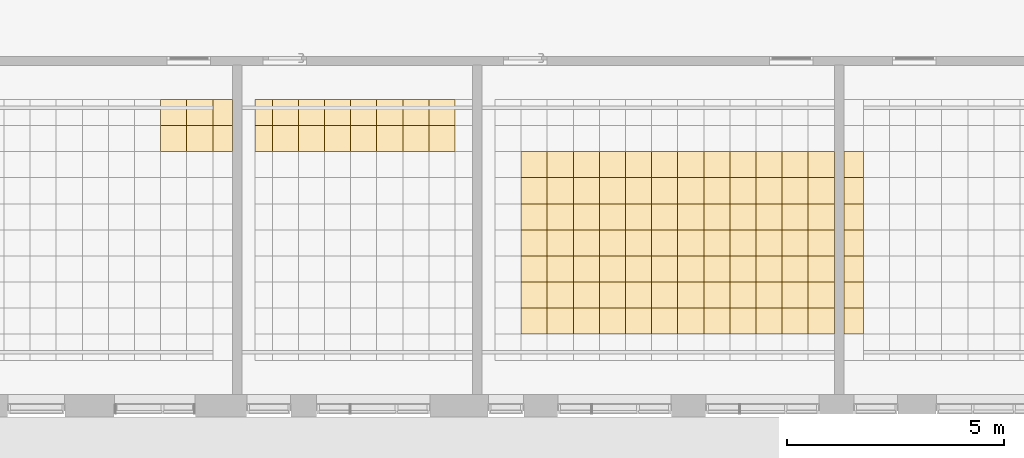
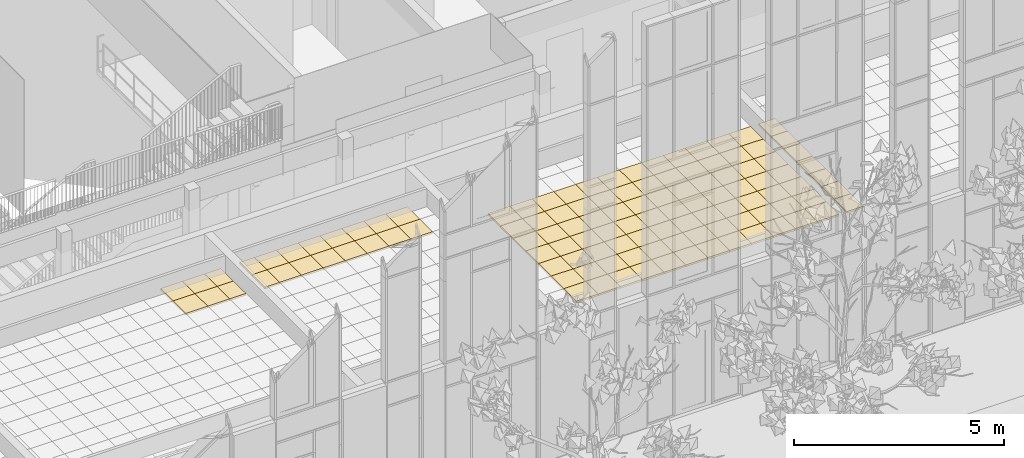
# One storey, part 193 of 246: 113 coverings.
"""IFC2X3 building model written with IfcOpenShell, lengths in millimetres."""

from ifc_helpers import new_model, entity, si_unit, converted_unit, derived_unit, money_unit, direction, frame, origin_with_axes, place, context, subcontext, project, spatial, faceted_brep, material, material_list, type_object, element, save


model = new_model("IFC2X3")

# Units and contexts
model_context = context("Model", 3, precision=0.01, world=origin_with_axes(), true_north=direction((0.0, 1.0)))
body_context = subcontext(model_context, "Body", "Model", "MODEL_VIEW")
ifc_project = project(units=[si_unit("LENGTHUNIT", "METRE", prefix="MILLI"), si_unit("AREAUNIT", "SQUARE_METRE"), si_unit("VOLUMEUNIT", "CUBIC_METRE"), converted_unit("PLANEANGLEUNIT", "DEGREE", entity("IfcPlaneAngleMeasure", 0.0174532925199), si_unit("PLANEANGLEUNIT", "RADIAN"), dimensions=[0, 0, 0, 0, 0, 0, 0]), si_unit("SOLIDANGLEUNIT", "STERADIAN"), money_unit("EUR"), converted_unit("TIMEUNIT", "Year", entity("IfcTimeMeasure", 31556926.0), si_unit("TIMEUNIT", "SECOND"), dimensions=[0, 0, 1, 0, 0, 0, 0]), si_unit("MASSUNIT", "GRAM", prefix="KILO"), si_unit("THERMODYNAMICTEMPERATUREUNIT", "DEGREE_CELSIUS"), si_unit("LUMINOUSINTENSITYUNIT", "LUMEN"), si_unit("ENERGYUNIT", "JOULE", prefix="MEGA"), derived_unit("THERMALCONDUCTANCEUNIT", [(si_unit("POWERUNIT", "WATT"), 1), (si_unit("LENGTHUNIT", "METRE"), -1), (si_unit("THERMODYNAMICTEMPERATUREUNIT", "KELVIN"), -1)]), derived_unit("SPECIFICHEATCAPACITYUNIT", [(si_unit("ENERGYUNIT", "JOULE"), 1), (si_unit("MASSUNIT", "GRAM", prefix="KILO"), -1), (si_unit("THERMODYNAMICTEMPERATUREUNIT", "KELVIN"), -1)]), derived_unit("MASSDENSITYUNIT", [(si_unit("MASSUNIT", "GRAM", prefix="KILO"), 1), (si_unit("VOLUMEUNIT", "CUBIC_METRE"), -1)])], contexts=[model_context])

# Site, building, storey
site_placement = place(None, origin_with_axes())
site = spatial("IfcSite", under=ifc_project, at=site_placement, Name="L.Koidula tn 11b", CompositionType="ELEMENT")
building_placement = place(site_placement, origin_with_axes())
building = spatial("IfcBuilding", under=site, at=building_placement, Name="Rakvere Riigigümnaasium", CompositionType="ELEMENT")
storey_placement = place(building_placement, origin_with_axes())
storey = spatial("IfcBuildingStorey", under=building, at=storey_placement, Name="1.korrus 0,00", CompositionType="ELEMENT", Elevation=0.0)

# Coverings
ifc_material_1 = material(Name="Karkass")
ifc_material_2 = material(Name="Kipsplaat")
ifc_material_list = material_list([ifc_material_1, ifc_material_2])
covering_type = type_object("IfcCoveringType", Name="SA-LV-Kips-moodul 55", PredefinedType="CEILING")
for number, where, z_axis, x_axis, name in (
    (1, (59159.6752046, 11090.4535941, 2750.0), (0.0, 0.0, 1.0), (1.0, 0.0, 0.0), "L-03"),
    (2, (59159.6752046, 11690.4535941, 2750.0), (0.0, 0.0, 1.0), (1.0, 0.0, 0.0), "L-03"),
):
    element("IfcCovering", number, at=place(storey_placement, frame(where, z_axis=z_axis, x_axis=x_axis)), inside=storey, type_object=covering_type, material=ifc_material_list, Name=name, PredefinedType="CEILING", context=body_context, shape_type="Brep", body=[
        faceted_brep([(599.999948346, 0.0, 12.5), (599.999948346, 0.0, 54.5), (0.0, 0.0, 54.5), (0.0, 0.0, 12.5), (599.999948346, 600.0, 12.5), (599.999948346, 600.0, 54.5), (0.0, 600.0, 54.5), (0.0, 600.0, 12.5)], [[[0, 1, 2, 3]], [[4, 5, 1, 0]], [[2, 1, 5, 6]], [[3, 2, 6, 7]], [[3, 7, 4, 0]], [[7, 6, 5, 4]]]),
        faceted_brep([(0.0, 0.0, 0.0), (599.999948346, 0.0, 0.0), (599.999948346, 0.0, 12.5), (0.0, 0.0, 12.5), (0.0, 600.0, 0.0), (599.999948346, 600.0, 0.0), (599.999948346, 600.0, 12.5), (0.0, 600.0, 12.5)], [[[0, 1, 2, 3]], [[0, 4, 5, 1]], [[1, 5, 6, 2]], [[3, 2, 6, 7]], [[4, 0, 3, 7]], [[5, 4, 7, 6]]]),
    ])
for number, where, z_axis, x_axis, name in (
    (3, (60359.6751529, 11090.4535941, 2750.0), (0.0, 0.0, 1.0), (1.0, 0.0, 0.0), "L-03"),
    (4, (60359.6751529, 11690.4535941, 2750.0), (0.0, 0.0, 1.0), (1.0, 0.0, 0.0), "L-03"),
):
    element("IfcCovering", number, at=place(storey_placement, frame(where, z_axis=z_axis, x_axis=x_axis)), inside=storey, type_object=covering_type, material=ifc_material_list, Name=name, PredefinedType="CEILING", context=body_context, shape_type="Brep", body=[
        faceted_brep([(450.341138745, 0.0, 12.5), (450.341138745, 0.0, 54.5), (0.0, 0.0, 54.5), (0.0, 0.0, 12.5), (450.341138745, 600.0, 12.5), (450.341138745, 600.0, 54.5), (0.0, 600.0, 54.5), (0.0, 600.0, 12.5)], [[[0, 1, 2, 3]], [[4, 5, 1, 0]], [[2, 1, 5, 6]], [[3, 2, 6, 7]], [[3, 7, 4, 0]], [[7, 6, 5, 4]]]),
        faceted_brep([(0.0, 0.0, 0.0), (450.341138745, 0.0, 0.0), (450.341138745, 0.0, 12.5), (0.0, 0.0, 12.5), (0.0, 600.0, 0.0), (450.341138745, 600.0, 0.0), (450.341138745, 600.0, 12.5), (0.0, 600.0, 12.5)], [[[0, 1, 2, 3]], [[0, 4, 5, 1]], [[1, 5, 6, 2]], [[3, 2, 6, 7]], [[4, 0, 3, 7]], [[5, 4, 7, 6]]]),
    ])
for number, where, z_axis, x_axis, name in (
    (5, (59759.6751529, 11090.4535941, 2750.0), (0.0, 0.0, 1.0), (1.0, 0.0, 0.0), "L-03"),
    (6, (59759.6751529, 11690.4535941, 2750.0), (0.0, 0.0, 1.0), (1.0, 0.0, 0.0), "L-03"),
):
    element("IfcCovering", number, at=place(storey_placement, frame(where, z_axis=z_axis, x_axis=x_axis)), inside=storey, type_object=covering_type, material=ifc_material_list, Name=name, PredefinedType="CEILING", context=body_context, shape_type="Brep", body=[
        faceted_brep([(600.0, 0.0, 12.5), (600.0, 0.0, 54.5), (0.0, 0.0, 54.5), (0.0, 0.0, 12.5), (600.0, 600.0, 12.5), (600.0, 600.0, 54.5), (0.0, 600.0, 54.5), (0.0, 600.0, 12.5)], [[[0, 1, 2, 3]], [[4, 5, 1, 0]], [[2, 1, 5, 6]], [[3, 2, 6, 7]], [[3, 7, 4, 0]], [[7, 6, 5, 4]]]),
        faceted_brep([(0.0, 0.0, 0.0), (600.0, 0.0, 0.0), (600.0, 0.0, 12.5), (0.0, 0.0, 12.5), (0.0, 600.0, 0.0), (600.0, 600.0, 0.0), (600.0, 600.0, 12.5), (0.0, 600.0, 12.5)], [[[0, 1, 2, 3]], [[0, 4, 5, 1]], [[1, 5, 6, 2]], [[3, 2, 6, 7]], [[4, 0, 3, 7]], [[5, 4, 7, 6]]]),
    ])
for number, where, z_axis, x_axis, name in (
    (7, (61729.718917, 11090.4535941, 2750.0), (0.0, 0.0, 1.0), (1.0, 0.0, 0.0), "L-03"),
    (8, (61729.718917, 11690.4535941, 2750.0), (0.0, 0.0, 1.0), (1.0, 0.0, 0.0), "L-03"),
):
    element("IfcCovering", number, at=place(storey_placement, frame(where, z_axis=z_axis, x_axis=x_axis)), inside=storey, type_object=covering_type, material=ifc_material_list, Name=name, PredefinedType="CEILING", context=body_context, shape_type="Brep", body=[
        faceted_brep([(599.999948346, 0.0, 12.5), (599.999948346, 0.0, 54.5), (0.0, 0.0, 54.5), (0.0, 0.0, 12.5), (599.999948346, 600.0, 12.5), (599.999948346, 600.0, 54.5), (0.0, 600.0, 54.5), (0.0, 600.0, 12.5)], [[[0, 1, 2, 3]], [[4, 5, 1, 0]], [[2, 1, 5, 6]], [[3, 2, 6, 7]], [[3, 7, 4, 0]], [[7, 6, 5, 4]]]),
        faceted_brep([(0.0, 0.0, 0.0), (599.999948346, 0.0, 0.0), (599.999948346, 0.0, 12.5), (0.0, 0.0, 12.5), (0.0, 600.0, 0.0), (599.999948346, 600.0, 0.0), (599.999948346, 600.0, 12.5), (0.0, 600.0, 12.5)], [[[0, 1, 2, 3]], [[0, 4, 5, 1]], [[1, 5, 6, 2]], [[3, 2, 6, 7]], [[4, 0, 3, 7]], [[5, 4, 7, 6]]]),
    ])
for number, where, z_axis, x_axis, name in (
    (9, (61329.7177494, 11090.4535941, 2750.0), (0.0, 0.0, 1.0), (1.0, 0.0, 0.0), "L-03"),
    (10, (61329.7177494, 11690.4535941, 2750.0), (0.0, 0.0, 1.0), (1.0, 0.0, 0.0), "L-03"),
):
    element("IfcCovering", number, at=place(storey_placement, frame(where, z_axis=z_axis, x_axis=x_axis)), inside=storey, type_object=covering_type, material=ifc_material_list, Name=name, PredefinedType="CEILING", context=body_context, shape_type="Brep", body=[
        faceted_brep([(400.001167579, 0.0, 12.5), (400.001167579, 0.0, 54.5), (0.0, 0.0, 54.5), (0.0, 0.0, 12.5), (400.001167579, 600.0, 12.5), (400.001167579, 600.0, 54.5), (0.0, 600.0, 54.5), (0.0, 600.0, 12.5)], [[[0, 1, 2, 3]], [[4, 5, 1, 0]], [[2, 1, 5, 6]], [[3, 2, 6, 7]], [[3, 7, 4, 0]], [[7, 6, 5, 4]]]),
        faceted_brep([(0.0, 0.0, 0.0), (400.001167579, 0.0, 0.0), (400.001167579, 0.0, 12.5), (0.0, 0.0, 12.5), (0.0, 600.0, 0.0), (400.001167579, 600.0, 0.0), (400.001167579, 600.0, 12.5), (0.0, 600.0, 12.5)], [[[0, 1, 2, 3]], [[0, 4, 5, 1]], [[1, 5, 6, 2]], [[3, 2, 6, 7]], [[4, 0, 3, 7]], [[5, 4, 7, 6]]]),
    ])
for number, where, z_axis, x_axis, name in (
    (11, (62929.7188653, 11090.4535941, 2750.0), (0.0, 0.0, 1.0), (1.0, 0.0, 0.0), "L-03"),
    (12, (62929.7188653, 11690.4535941, 2750.0), (0.0, 0.0, 1.0), (1.0, 0.0, 0.0), "L-03"),
):
    element("IfcCovering", number, at=place(storey_placement, frame(where, z_axis=z_axis, x_axis=x_axis)), inside=storey, type_object=covering_type, material=ifc_material_list, Name=name, PredefinedType="CEILING", context=body_context, shape_type="Brep", body=[
        faceted_brep([(599.999948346, 0.0, 12.5), (599.999948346, 0.0, 54.5), (0.0, 0.0, 54.5), (0.0, 0.0, 12.5), (599.999948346, 600.0, 12.5), (599.999948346, 600.0, 54.5), (0.0, 600.0, 54.5), (0.0, 600.0, 12.5)], [[[0, 1, 2, 3]], [[4, 5, 1, 0]], [[2, 1, 5, 6]], [[3, 2, 6, 7]], [[3, 7, 4, 0]], [[7, 6, 5, 4]]]),
        faceted_brep([(0.0, 0.0, 0.0), (599.999948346, 0.0, 0.0), (599.999948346, 0.0, 12.5), (0.0, 0.0, 12.5), (0.0, 600.0, 0.0), (599.999948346, 600.0, 0.0), (599.999948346, 600.0, 12.5), (0.0, 600.0, 12.5)], [[[0, 1, 2, 3]], [[0, 4, 5, 1]], [[1, 5, 6, 2]], [[3, 2, 6, 7]], [[4, 0, 3, 7]], [[5, 4, 7, 6]]]),
    ])
for number, where, z_axis, x_axis, name in (
    (13, (62329.7188653, 11090.4535941, 2750.0), (0.0, 0.0, 1.0), (1.0, 0.0, 0.0), "L-03"),
    (14, (62329.7188653, 11690.4535941, 2750.0), (0.0, 0.0, 1.0), (1.0, 0.0, 0.0), "L-03"),
):
    element("IfcCovering", number, at=place(storey_placement, frame(where, z_axis=z_axis, x_axis=x_axis)), inside=storey, type_object=covering_type, material=ifc_material_list, Name=name, PredefinedType="CEILING", context=body_context, shape_type="Brep", body=[
        faceted_brep([(600.0, 0.0, 12.5), (600.0, 0.0, 54.5), (0.0, 0.0, 54.5), (0.0, 0.0, 12.5), (600.0, 600.0, 12.5), (600.0, 600.0, 54.5), (0.0, 600.0, 54.5), (0.0, 600.0, 12.5)], [[[0, 1, 2, 3]], [[4, 5, 1, 0]], [[2, 1, 5, 6]], [[3, 2, 6, 7]], [[3, 7, 4, 0]], [[7, 6, 5, 4]]]),
        faceted_brep([(0.0, 0.0, 0.0), (600.0, 0.0, 0.0), (600.0, 0.0, 12.5), (0.0, 0.0, 12.5), (0.0, 600.0, 0.0), (600.0, 600.0, 0.0), (600.0, 600.0, 12.5), (0.0, 600.0, 12.5)], [[[0, 1, 2, 3]], [[0, 4, 5, 1]], [[1, 5, 6, 2]], [[3, 2, 6, 7]], [[4, 0, 3, 7]], [[5, 4, 7, 6]]]),
    ])
for number, where, z_axis, x_axis, name in (
    (15, (64129.7188137, 11090.4535941, 2750.0), (0.0, 0.0, 1.0), (1.0, 0.0, 0.0), "L-03"),
    (16, (64129.7188137, 11690.4535941, 2750.0), (0.0, 0.0, 1.0), (1.0, 0.0, 0.0), "L-03"),
):
    element("IfcCovering", number, at=place(storey_placement, frame(where, z_axis=z_axis, x_axis=x_axis)), inside=storey, type_object=covering_type, material=ifc_material_list, Name=name, PredefinedType="CEILING", context=body_context, shape_type="Brep", body=[
        faceted_brep([(599.999948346, 0.0, 12.5), (599.999948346, 0.0, 54.5), (0.0, 0.0, 54.5), (0.0, 0.0, 12.5), (599.999948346, 600.0, 12.5), (599.999948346, 600.0, 54.5), (0.0, 600.0, 54.5), (0.0, 600.0, 12.5)], [[[0, 1, 2, 3]], [[4, 5, 1, 0]], [[2, 1, 5, 6]], [[3, 2, 6, 7]], [[3, 7, 4, 0]], [[7, 6, 5, 4]]]),
        faceted_brep([(0.0, 0.0, 0.0), (599.999948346, 0.0, 0.0), (599.999948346, 0.0, 12.5), (0.0, 0.0, 12.5), (0.0, 600.0, 0.0), (599.999948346, 600.0, 0.0), (599.999948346, 600.0, 12.5), (0.0, 600.0, 12.5)], [[[0, 1, 2, 3]], [[0, 4, 5, 1]], [[1, 5, 6, 2]], [[3, 2, 6, 7]], [[4, 0, 3, 7]], [[5, 4, 7, 6]]]),
    ])
for number, where, z_axis, x_axis, name in (
    (17, (63529.7188137, 11090.4535941, 2750.0), (0.0, 0.0, 1.0), (1.0, 0.0, 0.0), "L-03"),
    (18, (63529.7188137, 11690.4535941, 2750.0), (0.0, 0.0, 1.0), (1.0, 0.0, 0.0), "L-03"),
):
    element("IfcCovering", number, at=place(storey_placement, frame(where, z_axis=z_axis, x_axis=x_axis)), inside=storey, type_object=covering_type, material=ifc_material_list, Name=name, PredefinedType="CEILING", context=body_context, shape_type="Brep", body=[
        faceted_brep([(600.0, 0.0, 12.5), (600.0, 0.0, 54.5), (0.0, 0.0, 54.5), (0.0, 0.0, 12.5), (600.0, 600.0, 12.5), (600.0, 600.0, 54.5), (0.0, 600.0, 54.5), (0.0, 600.0, 12.5)], [[[0, 1, 2, 3]], [[4, 5, 1, 0]], [[2, 1, 5, 6]], [[3, 2, 6, 7]], [[3, 7, 4, 0]], [[7, 6, 5, 4]]]),
        faceted_brep([(0.0, 0.0, 0.0), (600.0, 0.0, 0.0), (600.0, 0.0, 12.5), (0.0, 0.0, 12.5), (0.0, 600.0, 0.0), (600.0, 600.0, 0.0), (600.0, 600.0, 12.5), (0.0, 600.0, 12.5)], [[[0, 1, 2, 3]], [[0, 4, 5, 1]], [[1, 5, 6, 2]], [[3, 2, 6, 7]], [[4, 0, 3, 7]], [[5, 4, 7, 6]]]),
    ])
for number, where, z_axis, x_axis, name in (
    (19, (65329.718762, 11090.4535941, 2750.0), (0.0, 0.0, 1.0), (1.0, 0.0, 0.0), "L-03"),
    (20, (65329.718762, 11690.4535941, 2750.0), (0.0, 0.0, 1.0), (1.0, 0.0, 0.0), "L-03"),
):
    element("IfcCovering", number, at=place(storey_placement, frame(where, z_axis=z_axis, x_axis=x_axis)), inside=storey, type_object=covering_type, material=ifc_material_list, Name=name, PredefinedType="CEILING", context=body_context, shape_type="Brep", body=[
        faceted_brep([(599.999948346, 0.0, 12.5), (599.999948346, 0.0, 54.5), (0.0, 0.0, 54.5), (0.0, 0.0, 12.5), (599.999948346, 600.0, 12.5), (599.999948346, 600.0, 54.5), (0.0, 600.0, 54.5), (0.0, 600.0, 12.5)], [[[0, 1, 2, 3]], [[4, 5, 1, 0]], [[2, 1, 5, 6]], [[3, 2, 6, 7]], [[3, 7, 4, 0]], [[7, 6, 5, 4]]]),
        faceted_brep([(0.0, 0.0, 0.0), (599.999948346, 0.0, 0.0), (599.999948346, 0.0, 12.5), (0.0, 0.0, 12.5), (0.0, 600.0, 0.0), (599.999948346, 600.0, 0.0), (599.999948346, 600.0, 12.5), (0.0, 600.0, 12.5)], [[[0, 1, 2, 3]], [[0, 4, 5, 1]], [[1, 5, 6, 2]], [[3, 2, 6, 7]], [[4, 0, 3, 7]], [[5, 4, 7, 6]]]),
    ])
for number, where, z_axis, x_axis, name in (
    (21, (64729.718762, 11090.4535941, 2750.0), (0.0, 0.0, 1.0), (1.0, 0.0, 0.0), "L-03"),
    (22, (64729.718762, 11690.4535941, 2750.0), (0.0, 0.0, 1.0), (1.0, 0.0, 0.0), "L-03"),
):
    element("IfcCovering", number, at=place(storey_placement, frame(where, z_axis=z_axis, x_axis=x_axis)), inside=storey, type_object=covering_type, material=ifc_material_list, Name=name, PredefinedType="CEILING", context=body_context, shape_type="Brep", body=[
        faceted_brep([(600.0, 0.0, 12.5), (600.0, 0.0, 54.5), (0.0, 0.0, 54.5), (0.0, 0.0, 12.5), (600.0, 600.0, 12.5), (600.0, 600.0, 54.5), (0.0, 600.0, 54.5), (0.0, 600.0, 12.5)], [[[0, 1, 2, 3]], [[4, 5, 1, 0]], [[2, 1, 5, 6]], [[3, 2, 6, 7]], [[3, 7, 4, 0]], [[7, 6, 5, 4]]]),
        faceted_brep([(0.0, 0.0, 0.0), (600.0, 0.0, 0.0), (600.0, 0.0, 12.5), (0.0, 0.0, 12.5), (0.0, 600.0, 0.0), (600.0, 600.0, 0.0), (600.0, 600.0, 12.5), (0.0, 600.0, 12.5)], [[[0, 1, 2, 3]], [[0, 4, 5, 1]], [[1, 5, 6, 2]], [[3, 2, 6, 7]], [[4, 0, 3, 7]], [[5, 4, 7, 6]]]),
    ])
for number, where, z_axis, x_axis, name in (
    (23, (74870.0163848, 7490.45359412, 2750.0), (0.0, 0.0, 1.0), (1.0, 0.0, 0.0), "L-03"),
    (24, (74870.0163848, 8090.45359412, 2750.0), (0.0, 0.0, 1.0), (1.0, 0.0, 0.0), "L-03"),
    (25, (74870.0163848, 8690.45359412, 2750.0), (0.0, 0.0, 1.0), (1.0, 0.0, 0.0), "L-03"),
    (26, (74870.0163848, 9290.45359412, 2750.0), (0.0, 0.0, 1.0), (1.0, 0.0, 0.0), "L-03"),
    (27, (74870.0163848, 9890.45359412, 2750.0), (0.0, 0.0, 1.0), (1.0, 0.0, 0.0), "L-03"),
    (28, (74870.0163848, 10490.4535941, 2750.0), (0.0, 0.0, 1.0), (1.0, 0.0, 0.0), "L-03"),
    (29, (74870.0163848, 6890.45359412, 2750.0), (0.0, 0.0, 1.0), (1.0, 0.0, 0.0), "L-03"),
):
    element("IfcCovering", number, at=place(storey_placement, frame(where, z_axis=z_axis, x_axis=x_axis)), inside=storey, type_object=covering_type, material=ifc_material_list, Name=name, PredefinedType="CEILING", context=body_context, shape_type="Brep", body=[
        faceted_brep([(449.698824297, 0.0, 12.5), (449.698824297, 0.0, 54.5), (0.0, 0.0, 54.5), (0.0, 0.0, 12.5), (449.698824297, 600.0, 12.5), (449.698824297, 600.0, 54.5), (0.0, 600.0, 54.5), (0.0, 600.0, 12.5)], [[[0, 1, 2, 3]], [[4, 5, 1, 0]], [[2, 1, 5, 6]], [[3, 2, 6, 7]], [[3, 7, 4, 0]], [[7, 6, 5, 4]]]),
        faceted_brep([(0.0, 0.0, 0.0), (449.698824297, 0.0, 0.0), (449.698824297, 0.0, 12.5), (0.0, 0.0, 12.5), (0.0, 600.0, 0.0), (449.698824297, 600.0, 0.0), (449.698824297, 600.0, 12.5), (0.0, 600.0, 12.5)], [[[0, 1, 2, 3]], [[0, 4, 5, 1]], [[1, 5, 6, 2]], [[3, 2, 6, 7]], [[4, 0, 3, 7]], [[5, 4, 7, 6]]]),
    ])
for number, where, z_axis, x_axis, name in (
    (30, (67449.7153767, 10490.4535941, 2750.0), (0.0, 0.0, 1.0), (1.0, 0.0, 0.0), "L-03"),
    (31, (67449.7153767, 9890.45359412, 2750.0), (0.0, 0.0, 1.0), (1.0, 0.0, 0.0), "L-03"),
    (32, (67449.7153767, 9290.45359412, 2750.0), (0.0, 0.0, 1.0), (1.0, 0.0, 0.0), "L-03"),
    (33, (67449.7153767, 8690.45359412, 2750.0), (0.0, 0.0, 1.0), (1.0, 0.0, 0.0), "L-03"),
    (34, (67449.7153767, 8090.45359412, 2750.0), (0.0, 0.0, 1.0), (1.0, 0.0, 0.0), "L-03"),
    (35, (67449.7153767, 7490.45359412, 2750.0), (0.0, 0.0, 1.0), (1.0, 0.0, 0.0), "L-03"),
    (36, (67449.7153767, 6890.45359412, 2750.0), (0.0, 0.0, 1.0), (1.0, 0.0, 0.0), "L-03"),
    (37, (68649.715325, 10490.4535941, 2750.0), (0.0, 0.0, 1.0), (1.0, 0.0, 0.0), "L-03"),
    (38, (68649.715325, 9890.45359412, 2750.0), (0.0, 0.0, 1.0), (1.0, 0.0, 0.0), "L-03"),
    (39, (68649.715325, 9290.45359412, 2750.0), (0.0, 0.0, 1.0), (1.0, 0.0, 0.0), "L-03"),
    (40, (68649.715325, 8690.45359412, 2750.0), (0.0, 0.0, 1.0), (1.0, 0.0, 0.0), "L-03"),
    (41, (68649.715325, 8090.45359412, 2750.0), (0.0, 0.0, 1.0), (1.0, 0.0, 0.0), "L-03"),
    (42, (68649.715325, 7490.45359412, 2750.0), (0.0, 0.0, 1.0), (1.0, 0.0, 0.0), "L-03"),
    (43, (68649.715325, 6890.45359412, 2750.0), (0.0, 0.0, 1.0), (1.0, 0.0, 0.0), "L-03"),
):
    element("IfcCovering", number, at=place(storey_placement, frame(where, z_axis=z_axis, x_axis=x_axis)), inside=storey, type_object=covering_type, material=ifc_material_list, Name=name, PredefinedType="CEILING", context=body_context, shape_type="Brep", body=[
        faceted_brep([(599.999948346, 0.0, 12.5), (599.999948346, 0.0, 54.5), (0.0, 0.0, 54.5), (0.0, 0.0, 12.5), (599.999948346, 600.0, 12.5), (599.999948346, 600.0, 54.5), (0.0, 600.0, 54.5), (0.0, 600.0, 12.5)], [[[0, 1, 2, 3]], [[4, 5, 1, 0]], [[2, 1, 5, 6]], [[3, 2, 6, 7]], [[3, 7, 4, 0]], [[7, 6, 5, 4]]]),
        faceted_brep([(0.0, 0.0, 0.0), (599.999948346, 0.0, 0.0), (599.999948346, 0.0, 12.5), (0.0, 0.0, 12.5), (0.0, 600.0, 0.0), (599.999948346, 600.0, 0.0), (599.999948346, 600.0, 12.5), (0.0, 600.0, 12.5)], [[[0, 1, 2, 3]], [[0, 4, 5, 1]], [[1, 5, 6, 2]], [[3, 2, 6, 7]], [[4, 0, 3, 7]], [[5, 4, 7, 6]]]),
    ])
for number, where, z_axis, x_axis, name in (
    (44, (68049.715325, 7490.45359412, 2750.0), (0.0, 0.0, 1.0), (1.0, 0.0, 0.0), "L-03"),
    (45, (68049.715325, 8090.45359412, 2750.0), (0.0, 0.0, 1.0), (1.0, 0.0, 0.0), "L-03"),
    (46, (68049.715325, 8690.45359412, 2750.0), (0.0, 0.0, 1.0), (1.0, 0.0, 0.0), "L-03"),
    (47, (68049.715325, 9290.45359412, 2750.0), (0.0, 0.0, 1.0), (1.0, 0.0, 0.0), "L-03"),
    (48, (68049.715325, 9890.45359412, 2750.0), (0.0, 0.0, 1.0), (1.0, 0.0, 0.0), "L-03"),
    (49, (68049.715325, 10490.4535941, 2750.0), (0.0, 0.0, 1.0), (1.0, 0.0, 0.0), "L-03"),
    (50, (68049.715325, 6890.45359412, 2750.0), (0.0, 0.0, 1.0), (1.0, 0.0, 0.0), "L-03"),
):
    element("IfcCovering", number, at=place(storey_placement, frame(where, z_axis=z_axis, x_axis=x_axis)), inside=storey, type_object=covering_type, material=ifc_material_list, Name=name, PredefinedType="CEILING", context=body_context, shape_type="Brep", body=[
        faceted_brep([(600.0, 0.0, 12.5), (600.0, 0.0, 54.5), (0.0, 0.0, 54.5), (0.0, 0.0, 12.5), (600.0, 600.0, 12.5), (600.0, 600.0, 54.5), (0.0, 600.0, 54.5), (0.0, 600.0, 12.5)], [[[0, 1, 2, 3]], [[4, 5, 1, 0]], [[2, 1, 5, 6]], [[3, 2, 6, 7]], [[3, 7, 4, 0]], [[7, 6, 5, 4]]]),
        faceted_brep([(0.0, 0.0, 0.0), (600.0, 0.0, 0.0), (600.0, 0.0, 12.5), (0.0, 0.0, 12.5), (0.0, 600.0, 0.0), (600.0, 600.0, 0.0), (600.0, 600.0, 12.5), (0.0, 600.0, 12.5)], [[[0, 1, 2, 3]], [[0, 4, 5, 1]], [[1, 5, 6, 2]], [[3, 2, 6, 7]], [[4, 0, 3, 7]], [[5, 4, 7, 6]]]),
    ])
for number, where, z_axis, x_axis, name in (
    (51, (69849.7152734, 10490.4535941, 2750.0), (0.0, 0.0, 1.0), (1.0, 0.0, 0.0), "L-03"),
    (52, (69849.7152734, 9890.45359412, 2750.0), (0.0, 0.0, 1.0), (1.0, 0.0, 0.0), "L-03"),
    (53, (69849.7152734, 9290.45359412, 2750.0), (0.0, 0.0, 1.0), (1.0, 0.0, 0.0), "L-03"),
    (54, (69849.7152734, 8690.45359412, 2750.0), (0.0, 0.0, 1.0), (1.0, 0.0, 0.0), "L-03"),
    (55, (69849.7152734, 8090.45359412, 2750.0), (0.0, 0.0, 1.0), (1.0, 0.0, 0.0), "L-03"),
    (56, (69849.7152734, 7490.45359412, 2750.0), (0.0, 0.0, 1.0), (1.0, 0.0, 0.0), "L-03"),
    (57, (69849.7152734, 6890.45359412, 2750.0), (0.0, 0.0, 1.0), (1.0, 0.0, 0.0), "L-03"),
):
    element("IfcCovering", number, at=place(storey_placement, frame(where, z_axis=z_axis, x_axis=x_axis)), inside=storey, type_object=covering_type, material=ifc_material_list, Name=name, PredefinedType="CEILING", context=body_context, shape_type="Brep", body=[
        faceted_brep([(599.999948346, 0.0, 12.5), (599.999948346, 0.0, 54.5), (0.0, 0.0, 54.5), (0.0, 0.0, 12.5), (599.999948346, 600.0, 12.5), (599.999948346, 600.0, 54.5), (0.0, 600.0, 54.5), (0.0, 600.0, 12.5)], [[[0, 1, 2, 3]], [[4, 5, 1, 0]], [[2, 1, 5, 6]], [[3, 2, 6, 7]], [[3, 7, 4, 0]], [[7, 6, 5, 4]]]),
        faceted_brep([(0.0, 0.0, 0.0), (599.999948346, 0.0, 0.0), (599.999948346, 0.0, 12.5), (0.0, 0.0, 12.5), (0.0, 600.0, 0.0), (599.999948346, 600.0, 0.0), (599.999948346, 600.0, 12.5), (0.0, 600.0, 12.5)], [[[0, 1, 2, 3]], [[0, 4, 5, 1]], [[1, 5, 6, 2]], [[3, 2, 6, 7]], [[4, 0, 3, 7]], [[5, 4, 7, 6]]]),
    ])
for number, where, z_axis, x_axis, name in (
    (58, (69249.7152734, 7490.45359412, 2750.0), (0.0, 0.0, 1.0), (1.0, 0.0, 0.0), "L-03"),
    (59, (69249.7152734, 8090.45359412, 2750.0), (0.0, 0.0, 1.0), (1.0, 0.0, 0.0), "L-03"),
    (60, (69249.7152734, 8690.45359412, 2750.0), (0.0, 0.0, 1.0), (1.0, 0.0, 0.0), "L-03"),
    (61, (69249.7152734, 9290.45359412, 2750.0), (0.0, 0.0, 1.0), (1.0, 0.0, 0.0), "L-03"),
    (62, (69249.7152734, 9890.45359412, 2750.0), (0.0, 0.0, 1.0), (1.0, 0.0, 0.0), "L-03"),
    (63, (69249.7152734, 10490.4535941, 2750.0), (0.0, 0.0, 1.0), (1.0, 0.0, 0.0), "L-03"),
    (64, (69249.7152734, 6890.45359412, 2750.0), (0.0, 0.0, 1.0), (1.0, 0.0, 0.0), "L-03"),
):
    element("IfcCovering", number, at=place(storey_placement, frame(where, z_axis=z_axis, x_axis=x_axis)), inside=storey, type_object=covering_type, material=ifc_material_list, Name=name, PredefinedType="CEILING", context=body_context, shape_type="Brep", body=[
        faceted_brep([(600.0, 0.0, 12.5), (600.0, 0.0, 54.5), (0.0, 0.0, 54.5), (0.0, 0.0, 12.5), (600.0, 600.0, 12.5), (600.0, 600.0, 54.5), (0.0, 600.0, 54.5), (0.0, 600.0, 12.5)], [[[0, 1, 2, 3]], [[4, 5, 1, 0]], [[2, 1, 5, 6]], [[3, 2, 6, 7]], [[3, 7, 4, 0]], [[7, 6, 5, 4]]]),
        faceted_brep([(0.0, 0.0, 0.0), (600.0, 0.0, 0.0), (600.0, 0.0, 12.5), (0.0, 0.0, 12.5), (0.0, 600.0, 0.0), (600.0, 600.0, 0.0), (600.0, 600.0, 12.5), (0.0, 600.0, 12.5)], [[[0, 1, 2, 3]], [[0, 4, 5, 1]], [[1, 5, 6, 2]], [[3, 2, 6, 7]], [[4, 0, 3, 7]], [[5, 4, 7, 6]]]),
    ])
for number, where, z_axis, x_axis, name in (
    (65, (71049.7152217, 10490.4535941, 2750.0), (0.0, 0.0, 1.0), (1.0, 0.0, 0.0), "L-03"),
    (66, (71049.7152217, 9890.45359412, 2750.0), (0.0, 0.0, 1.0), (1.0, 0.0, 0.0), "L-03"),
    (67, (71049.7152217, 9290.45359412, 2750.0), (0.0, 0.0, 1.0), (1.0, 0.0, 0.0), "L-03"),
    (68, (71049.7152217, 8690.45359412, 2750.0), (0.0, 0.0, 1.0), (1.0, 0.0, 0.0), "L-03"),
    (69, (71049.7152217, 8090.45359412, 2750.0), (0.0, 0.0, 1.0), (1.0, 0.0, 0.0), "L-03"),
    (70, (71049.7152217, 7490.45359412, 2750.0), (0.0, 0.0, 1.0), (1.0, 0.0, 0.0), "L-03"),
    (71, (71049.7152217, 6890.45359412, 2750.0), (0.0, 0.0, 1.0), (1.0, 0.0, 0.0), "L-03"),
):
    element("IfcCovering", number, at=place(storey_placement, frame(where, z_axis=z_axis, x_axis=x_axis)), inside=storey, type_object=covering_type, material=ifc_material_list, Name=name, PredefinedType="CEILING", context=body_context, shape_type="Brep", body=[
        faceted_brep([(599.999948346, 0.0, 12.5), (599.999948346, 0.0, 54.5), (0.0, 0.0, 54.5), (0.0, 0.0, 12.5), (599.999948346, 600.0, 12.5), (599.999948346, 600.0, 54.5), (0.0, 600.0, 54.5), (0.0, 600.0, 12.5)], [[[0, 1, 2, 3]], [[4, 5, 1, 0]], [[2, 1, 5, 6]], [[3, 2, 6, 7]], [[3, 7, 4, 0]], [[7, 6, 5, 4]]]),
        faceted_brep([(0.0, 0.0, 0.0), (599.999948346, 0.0, 0.0), (599.999948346, 0.0, 12.5), (0.0, 0.0, 12.5), (0.0, 600.0, 0.0), (599.999948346, 600.0, 0.0), (599.999948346, 600.0, 12.5), (0.0, 600.0, 12.5)], [[[0, 1, 2, 3]], [[0, 4, 5, 1]], [[1, 5, 6, 2]], [[3, 2, 6, 7]], [[4, 0, 3, 7]], [[5, 4, 7, 6]]]),
    ])
for number, where, z_axis, x_axis, name in (
    (72, (70449.7152217, 7490.45359412, 2750.0), (0.0, 0.0, 1.0), (1.0, 0.0, 0.0), "L-03"),
    (73, (70449.7152217, 8090.45359412, 2750.0), (0.0, 0.0, 1.0), (1.0, 0.0, 0.0), "L-03"),
    (74, (70449.7152217, 8690.45359412, 2750.0), (0.0, 0.0, 1.0), (1.0, 0.0, 0.0), "L-03"),
    (75, (70449.7152217, 9290.45359412, 2750.0), (0.0, 0.0, 1.0), (1.0, 0.0, 0.0), "L-03"),
    (76, (70449.7152217, 9890.45359412, 2750.0), (0.0, 0.0, 1.0), (1.0, 0.0, 0.0), "L-03"),
    (77, (70449.7152217, 10490.4535941, 2750.0), (0.0, 0.0, 1.0), (1.0, 0.0, 0.0), "L-03"),
    (78, (70449.7152217, 6890.45359412, 2750.0), (0.0, 0.0, 1.0), (1.0, 0.0, 0.0), "L-03"),
):
    element("IfcCovering", number, at=place(storey_placement, frame(where, z_axis=z_axis, x_axis=x_axis)), inside=storey, type_object=covering_type, material=ifc_material_list, Name=name, PredefinedType="CEILING", context=body_context, shape_type="Brep", body=[
        faceted_brep([(600.0, 0.0, 12.5), (600.0, 0.0, 54.5), (0.0, 0.0, 54.5), (0.0, 0.0, 12.5), (600.0, 600.0, 12.5), (600.0, 600.0, 54.5), (0.0, 600.0, 54.5), (0.0, 600.0, 12.5)], [[[0, 1, 2, 3]], [[4, 5, 1, 0]], [[2, 1, 5, 6]], [[3, 2, 6, 7]], [[3, 7, 4, 0]], [[7, 6, 5, 4]]]),
        faceted_brep([(0.0, 0.0, 0.0), (600.0, 0.0, 0.0), (600.0, 0.0, 12.5), (0.0, 0.0, 12.5), (0.0, 600.0, 0.0), (600.0, 600.0, 0.0), (600.0, 600.0, 12.5), (0.0, 600.0, 12.5)], [[[0, 1, 2, 3]], [[0, 4, 5, 1]], [[1, 5, 6, 2]], [[3, 2, 6, 7]], [[4, 0, 3, 7]], [[5, 4, 7, 6]]]),
    ])
for number, where, z_axis, x_axis, name in (
    (79, (72249.7151701, 10490.4535941, 2750.0), (0.0, 0.0, 1.0), (1.0, 0.0, 0.0), "L-03"),
    (80, (72249.7151701, 9890.45359412, 2750.0), (0.0, 0.0, 1.0), (1.0, 0.0, 0.0), "L-03"),
    (81, (72249.7151701, 9290.45359412, 2750.0), (0.0, 0.0, 1.0), (1.0, 0.0, 0.0), "L-03"),
    (82, (72249.7151701, 8690.45359412, 2750.0), (0.0, 0.0, 1.0), (1.0, 0.0, 0.0), "L-03"),
    (83, (72249.7151701, 8090.45359412, 2750.0), (0.0, 0.0, 1.0), (1.0, 0.0, 0.0), "L-03"),
    (84, (72249.7151701, 7490.45359412, 2750.0), (0.0, 0.0, 1.0), (1.0, 0.0, 0.0), "L-03"),
    (85, (72249.7151701, 6890.45359412, 2750.0), (0.0, 0.0, 1.0), (1.0, 0.0, 0.0), "L-03"),
):
    element("IfcCovering", number, at=place(storey_placement, frame(where, z_axis=z_axis, x_axis=x_axis)), inside=storey, type_object=covering_type, material=ifc_material_list, Name=name, PredefinedType="CEILING", context=body_context, shape_type="Brep", body=[
        faceted_brep([(599.999948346, 0.0, 12.5), (599.999948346, 0.0, 54.5), (0.0, 0.0, 54.5), (0.0, 0.0, 12.5), (599.999948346, 600.0, 12.5), (599.999948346, 600.0, 54.5), (0.0, 600.0, 54.5), (0.0, 600.0, 12.5)], [[[0, 1, 2, 3]], [[4, 5, 1, 0]], [[2, 1, 5, 6]], [[3, 2, 6, 7]], [[3, 7, 4, 0]], [[7, 6, 5, 4]]]),
        faceted_brep([(0.0, 0.0, 0.0), (599.999948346, 0.0, 0.0), (599.999948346, 0.0, 12.5), (0.0, 0.0, 12.5), (0.0, 600.0, 0.0), (599.999948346, 600.0, 0.0), (599.999948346, 600.0, 12.5), (0.0, 600.0, 12.5)], [[[0, 1, 2, 3]], [[0, 4, 5, 1]], [[1, 5, 6, 2]], [[3, 2, 6, 7]], [[4, 0, 3, 7]], [[5, 4, 7, 6]]]),
    ])
for number, where, z_axis, x_axis, name in (
    (86, (71649.7151701, 7490.45359412, 2750.0), (0.0, 0.0, 1.0), (1.0, 0.0, 0.0), "L-03"),
    (87, (71649.7151701, 8090.45359412, 2750.0), (0.0, 0.0, 1.0), (1.0, 0.0, 0.0), "L-03"),
    (88, (71649.7151701, 8690.45359412, 2750.0), (0.0, 0.0, 1.0), (1.0, 0.0, 0.0), "L-03"),
    (89, (71649.7151701, 9290.45359412, 2750.0), (0.0, 0.0, 1.0), (1.0, 0.0, 0.0), "L-03"),
    (90, (71649.7151701, 9890.45359412, 2750.0), (0.0, 0.0, 1.0), (1.0, 0.0, 0.0), "L-03"),
    (91, (71649.7151701, 10490.4535941, 2750.0), (0.0, 0.0, 1.0), (1.0, 0.0, 0.0), "L-03"),
    (92, (71649.7151701, 6890.45359412, 2750.0), (0.0, 0.0, 1.0), (1.0, 0.0, 0.0), "L-03"),
):
    element("IfcCovering", number, at=place(storey_placement, frame(where, z_axis=z_axis, x_axis=x_axis)), inside=storey, type_object=covering_type, material=ifc_material_list, Name=name, PredefinedType="CEILING", context=body_context, shape_type="Brep", body=[
        faceted_brep([(600.0, 0.0, 12.5), (600.0, 0.0, 54.5), (0.0, 0.0, 54.5), (0.0, 0.0, 12.5), (600.0, 600.0, 12.5), (600.0, 600.0, 54.5), (0.0, 600.0, 54.5), (0.0, 600.0, 12.5)], [[[0, 1, 2, 3]], [[4, 5, 1, 0]], [[2, 1, 5, 6]], [[3, 2, 6, 7]], [[3, 7, 4, 0]], [[7, 6, 5, 4]]]),
        faceted_brep([(0.0, 0.0, 0.0), (600.0, 0.0, 0.0), (600.0, 0.0, 12.5), (0.0, 0.0, 12.5), (0.0, 600.0, 0.0), (600.0, 600.0, 0.0), (600.0, 600.0, 12.5), (0.0, 600.0, 12.5)], [[[0, 1, 2, 3]], [[0, 4, 5, 1]], [[1, 5, 6, 2]], [[3, 2, 6, 7]], [[4, 0, 3, 7]], [[5, 4, 7, 6]]]),
    ])
for number, where, z_axis, x_axis, name in (
    (93, (73449.7151184, 10490.4535941, 2750.0), (0.0, 0.0, 1.0), (1.0, 0.0, 0.0), "L-03"),
    (94, (73449.7151184, 9890.45359412, 2750.0), (0.0, 0.0, 1.0), (1.0, 0.0, 0.0), "L-03"),
    (95, (73449.7151184, 9290.45359412, 2750.0), (0.0, 0.0, 1.0), (1.0, 0.0, 0.0), "L-03"),
    (96, (73449.7151184, 8690.45359412, 2750.0), (0.0, 0.0, 1.0), (1.0, 0.0, 0.0), "L-03"),
    (97, (73449.7151184, 8090.45359412, 2750.0), (0.0, 0.0, 1.0), (1.0, 0.0, 0.0), "L-03"),
    (98, (73449.7151184, 7490.45359412, 2750.0), (0.0, 0.0, 1.0), (1.0, 0.0, 0.0), "L-03"),
    (99, (73449.7151184, 6890.45359412, 2750.0), (0.0, 0.0, 1.0), (1.0, 0.0, 0.0), "L-03"),
):
    element("IfcCovering", number, at=place(storey_placement, frame(where, z_axis=z_axis, x_axis=x_axis)), inside=storey, type_object=covering_type, material=ifc_material_list, Name=name, PredefinedType="CEILING", context=body_context, shape_type="Brep", body=[
        faceted_brep([(599.999948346, 0.0, 12.5), (599.999948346, 0.0, 54.5), (0.0, 0.0, 54.5), (0.0, 0.0, 12.5), (599.999948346, 600.0, 12.5), (599.999948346, 600.0, 54.5), (0.0, 600.0, 54.5), (0.0, 600.0, 12.5)], [[[0, 1, 2, 3]], [[4, 5, 1, 0]], [[2, 1, 5, 6]], [[3, 2, 6, 7]], [[3, 7, 4, 0]], [[7, 6, 5, 4]]]),
        faceted_brep([(0.0, 0.0, 0.0), (599.999948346, 0.0, 0.0), (599.999948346, 0.0, 12.5), (0.0, 0.0, 12.5), (0.0, 600.0, 0.0), (599.999948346, 600.0, 0.0), (599.999948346, 600.0, 12.5), (0.0, 600.0, 12.5)], [[[0, 1, 2, 3]], [[0, 4, 5, 1]], [[1, 5, 6, 2]], [[3, 2, 6, 7]], [[4, 0, 3, 7]], [[5, 4, 7, 6]]]),
    ])
for number, where, z_axis, x_axis, name in (
    (100, (72849.7151184, 7490.45359412, 2750.0), (0.0, 0.0, 1.0), (1.0, 0.0, 0.0), "L-03"),
    (101, (72849.7151184, 8090.45359412, 2750.0), (0.0, 0.0, 1.0), (1.0, 0.0, 0.0), "L-03"),
    (102, (72849.7151184, 8690.45359412, 2750.0), (0.0, 0.0, 1.0), (1.0, 0.0, 0.0), "L-03"),
    (103, (72849.7151184, 9290.45359412, 2750.0), (0.0, 0.0, 1.0), (1.0, 0.0, 0.0), "L-03"),
    (104, (72849.7151184, 9890.45359412, 2750.0), (0.0, 0.0, 1.0), (1.0, 0.0, 0.0), "L-03"),
    (105, (72849.7151184, 10490.4535941, 2750.0), (0.0, 0.0, 1.0), (1.0, 0.0, 0.0), "L-03"),
    (106, (72849.7151184, 6890.45359412, 2750.0), (0.0, 0.0, 1.0), (1.0, 0.0, 0.0), "L-03"),
    (107, (74049.7150668, 7490.45359412, 2750.0), (0.0, 0.0, 1.0), (1.0, 0.0, 0.0), "L-03"),
    (108, (74049.7150668, 8090.45359412, 2750.0), (0.0, 0.0, 1.0), (1.0, 0.0, 0.0), "L-03"),
    (109, (74049.7150668, 8690.45359412, 2750.0), (0.0, 0.0, 1.0), (1.0, 0.0, 0.0), "L-03"),
    (110, (74049.7150668, 9290.45359412, 2750.0), (0.0, 0.0, 1.0), (1.0, 0.0, 0.0), "L-03"),
    (111, (74049.7150668, 9890.45359412, 2750.0), (0.0, 0.0, 1.0), (1.0, 0.0, 0.0), "L-03"),
    (112, (74049.7150668, 10490.4535941, 2750.0), (0.0, 0.0, 1.0), (1.0, 0.0, 0.0), "L-03"),
    (113, (74049.7150668, 6890.45359412, 2750.0), (0.0, 0.0, 1.0), (1.0, 0.0, 0.0), "L-03"),
):
    element("IfcCovering", number, at=place(storey_placement, frame(where, z_axis=z_axis, x_axis=x_axis)), inside=storey, type_object=covering_type, material=ifc_material_list, Name=name, PredefinedType="CEILING", context=body_context, shape_type="Brep", body=[
        faceted_brep([(600.0, 0.0, 12.5), (600.0, 0.0, 54.5), (0.0, 0.0, 54.5), (0.0, 0.0, 12.5), (600.0, 600.0, 12.5), (600.0, 600.0, 54.5), (0.0, 600.0, 54.5), (0.0, 600.0, 12.5)], [[[0, 1, 2, 3]], [[4, 5, 1, 0]], [[2, 1, 5, 6]], [[3, 2, 6, 7]], [[3, 7, 4, 0]], [[7, 6, 5, 4]]]),
        faceted_brep([(0.0, 0.0, 0.0), (600.0, 0.0, 0.0), (600.0, 0.0, 12.5), (0.0, 0.0, 12.5), (0.0, 600.0, 0.0), (600.0, 600.0, 0.0), (600.0, 600.0, 12.5), (0.0, 600.0, 12.5)], [[[0, 1, 2, 3]], [[0, 4, 5, 1]], [[1, 5, 6, 2]], [[3, 2, 6, 7]], [[4, 0, 3, 7]], [[5, 4, 7, 6]]]),
    ])

save(model, "model.ifc")
